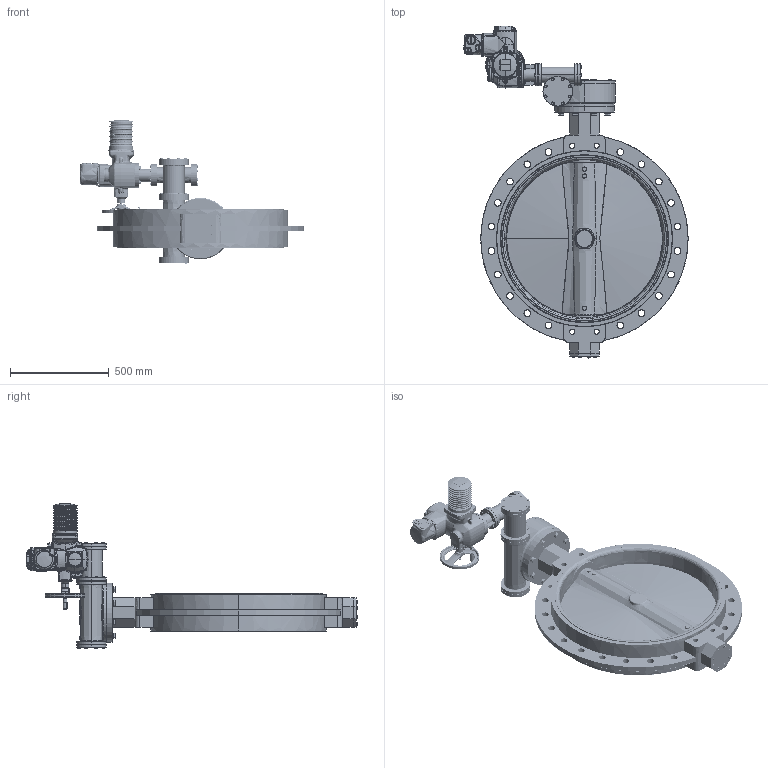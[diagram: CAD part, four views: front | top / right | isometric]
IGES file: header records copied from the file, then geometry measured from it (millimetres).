
Start section: SolidWorks IGES file using analytic representation for surfaces
Global section: file name: H:\BE BIBLIOTHEQUE 3D\BE SECTION 01 - ROBINETS A PAPILLON_VANNES PASSAGE DIRECTE\VP - Vanne Papillon\VPE\WORLDVALVE\WAFER\TECLARGE\VPE440X-UX4\PN10\DN800\VPE440X-U04EP0800.IGS; native system: SolidWorks 2017; preprocessor: SolidWorks 2017; author: k.gigout; date: 200804.174344; units: millimetre
Bounding box: 1135.54 x 1680.8 x 734.06 mm (x, y, z)
Surface area: 4855796.4 mm2 (no closed solid volume)
Topology: 0 solids, 0 shells, 1869 faces, 32452 edges, 32430 vertices
Faces by surface type: bspline 1160, revolution 709
